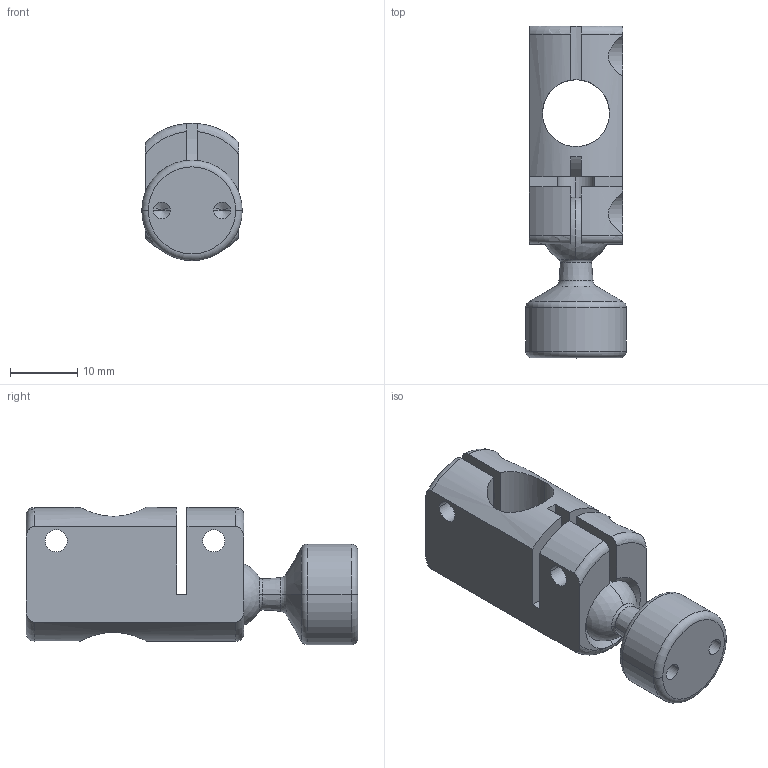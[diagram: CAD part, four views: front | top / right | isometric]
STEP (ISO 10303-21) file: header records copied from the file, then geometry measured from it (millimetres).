
FILE_DESCRIPTION (( 'STEP AP214' ), '1' );
FILE_NAME ('SBC360F.STEP', '2025-07-23T01:49:32', ( '' ), ( '' ), 'SwSTEP 2.0', 'SolidWorks 2024', '' );
FILE_SCHEMA (( 'AUTOMOTIVE_DESIGN' ));
Length unit declared in the file: millimetre
Products named in the file (3): SBC360F; SBC10-001; SBC10-860
Assembly tree (2 placements, depth 2):
  SBC360F
    SBC10-001
    SBC10-860
Bounding box: 15 x 49.5 x 20.5 mm (x, y, z)
Volume: 6682.3 mm3; surface area: 5119.2 mm2
Topology: 2 solids, 2 shells, 86 faces, 236 edges, 147 vertices
Faces by surface type: cylinder 34, plane 20, torus 16, cone 12, sphere 4
Entity records: 3014 total; most frequent: CARTESIAN_POINT 777, DIRECTION 485, ORIENTED_EDGE 442, EDGE_CURVE 221, AXIS2_PLACEMENT_3D 200, VERTEX_POINT 140, CIRCLE 109, EDGE_LOOP 97
